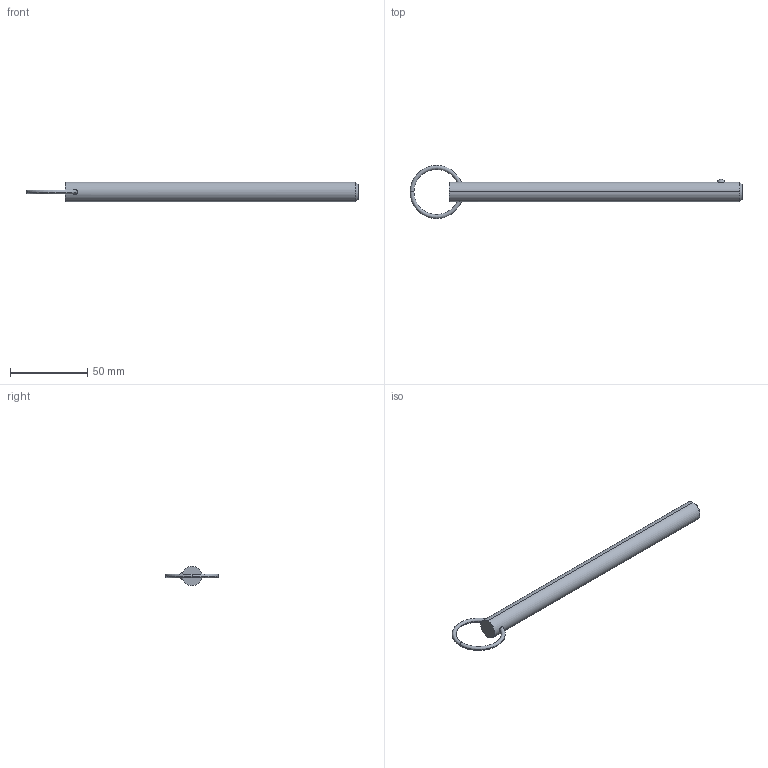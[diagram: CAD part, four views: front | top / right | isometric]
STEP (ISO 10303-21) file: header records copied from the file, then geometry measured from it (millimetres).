
FILE_DESCRIPTION (( 'STEP AP203' ), '1' );
FILE_NAME ('33012.W5065.step', '2024-11-01T14:14:13', ( '' ), ( '' ), 'SwSTEP 2.0', 'SolidWorks 2019', '' );
FILE_SCHEMA (( 'CONFIG_CONTROL_DESIGN' ));
Length unit declared in the file: millimetre
Products named in the file (3): Part1_33012.W5065; 33012.W5065; Part2_33012.W5065
Assembly tree (2 placements, depth 2):
  33012.W5065
    Part1_33012.W5065
    Part2_33012.W5065
Bounding box: 214.39 x 34.29 x 12.7 mm (x, y, z)
Volume: 24306.1 mm3; surface area: 8669 mm2
Topology: 2 solids, 2 shells, 16 faces, 31 edges, 18 vertices
Faces by surface type: torus 8, sphere 2, cone 2, cylinder 2, plane 2
Entity records: 885 total; most frequent: CARTESIAN_POINT 242, DIRECTION 88, ORIENTED_EDGE 62, AXIS2_PLACEMENT_3D 42, EDGE_CURVE 31, PERSON_AND_ORGANIZATION 26, CIRCLE 21, LOCAL_TIME 19
